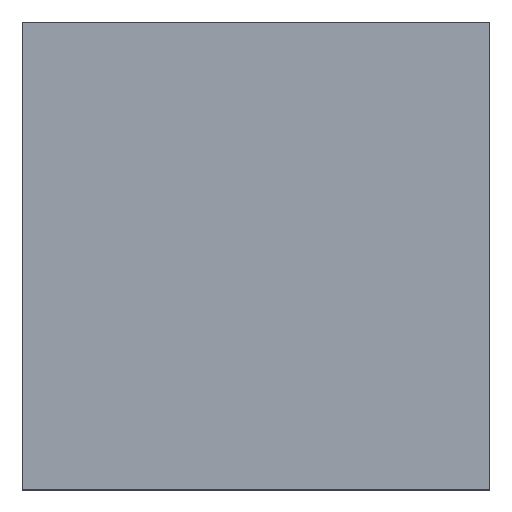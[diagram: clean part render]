
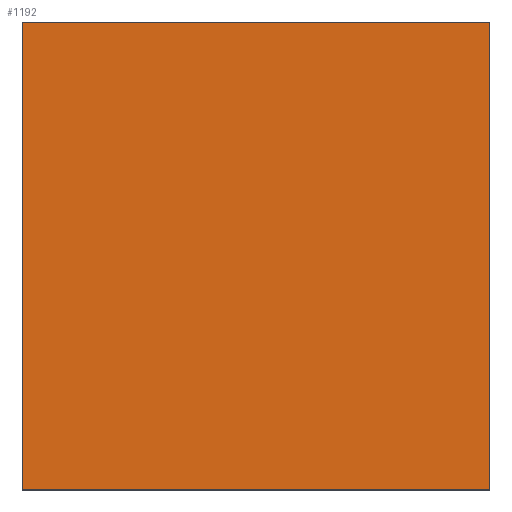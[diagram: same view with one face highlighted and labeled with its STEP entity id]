
A CAD part, top view. The second image highlights one B-rep face of the part: STEP entity #1192.
In plain terms, the highlighted planar face has unit normal (0, 0, 1).
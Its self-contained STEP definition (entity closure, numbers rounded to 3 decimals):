
#152=ORIENTED_EDGE('',*,*,#458,.T.);
#153=ORIENTED_EDGE('',*,*,#462,.T.);
#154=ORIENTED_EDGE('',*,*,#465,.T.);
#155=ORIENTED_EDGE('',*,*,#467,.T.);
#458=EDGE_CURVE('',#611,#610,#738,.T.);
#462=EDGE_CURVE('',#610,#613,#742,.T.);
#465=EDGE_CURVE('',#613,#615,#745,.T.);
#467=EDGE_CURVE('',#615,#611,#747,.T.);
#610=VERTEX_POINT('',#1813);
#611=VERTEX_POINT('',#1815);
#613=VERTEX_POINT('',#1821);
#615=VERTEX_POINT('',#1827);
#738=LINE('',#1814,#906);
#742=LINE('',#1822,#910);
#745=LINE('',#1828,#913);
#747=LINE('',#1831,#915);
#906=VECTOR('',#1450,1000.);
#910=VECTOR('',#1456,1000.);
#913=VECTOR('',#1461,1000.);
#915=VECTOR('',#1465,1000.);
#997=EDGE_LOOP('',(#152,#153,#154,#155));
#1065=FACE_BOUND('',#997,.T.);
#1129=PLANE('',#1268);
#1192=ADVANCED_FACE('',(#1065),#1129,.T.);
#1268=AXIS2_PLACEMENT_3D('',#1832,#1466,#1467);
#1450=DIRECTION('',(-1.,0.,0.));
#1456=DIRECTION('',(0.,-1.,0.));
#1461=DIRECTION('',(1.,0.,0.));
#1465=DIRECTION('',(0.,1.,0.));
#1466=DIRECTION('',(0.,0.,1.));
#1467=DIRECTION('',(1.,0.,0.));
#1813=CARTESIAN_POINT('',(-30.,30.,5.));
#1814=CARTESIAN_POINT('',(30.,30.,5.));
#1815=CARTESIAN_POINT('',(30.,30.,5.));
#1821=CARTESIAN_POINT('',(-30.,-30.,5.));
#1822=CARTESIAN_POINT('',(-30.,30.,5.));
#1827=CARTESIAN_POINT('',(30.,-30.,5.));
#1828=CARTESIAN_POINT('',(-30.,-30.,5.));
#1831=CARTESIAN_POINT('',(30.,-30.,5.));
#1832=CARTESIAN_POINT('',(0.,0.,5.));
